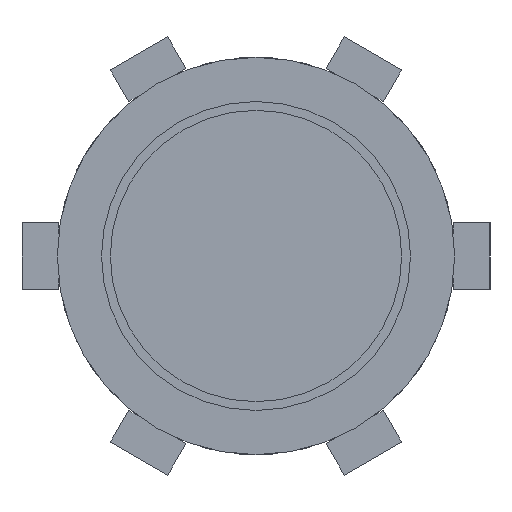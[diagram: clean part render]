
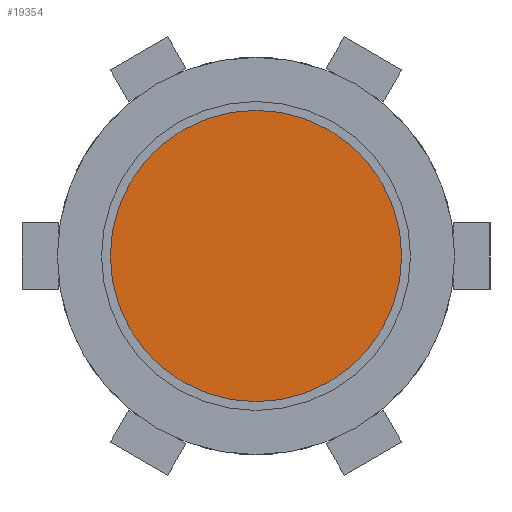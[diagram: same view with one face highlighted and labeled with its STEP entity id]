
A CAD part, left-side view. The second image highlights one B-rep face of the part: STEP entity #19354.
In plain terms, the highlighted planar face has unit normal (-1, 0, 0).
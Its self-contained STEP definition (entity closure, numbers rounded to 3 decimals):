
#19229 = CYLINDRICAL_SURFACE('',#19230,6.6);
#19230 = AXIS2_PLACEMENT_3D('',#19231,#19232,#19233);
#19231 = CARTESIAN_POINT('',(-64.07,-49.893,-53.918));
#19232 = DIRECTION('',(1.,0.,0.));
#19233 = DIRECTION('',(0.,1.,0.));
#19300 = VERTEX_POINT('',#19301);
#19301 = CARTESIAN_POINT('',(-64.,-43.293,-53.918));
#19324 = EDGE_CURVE('',#19300,#19300,#19325,.T.);
#19325 = SURFACE_CURVE('',#19326,(#19331,#19338),.PCURVE_S1.);
#19326 = CIRCLE('',#19327,6.6);
#19327 = AXIS2_PLACEMENT_3D('',#19328,#19329,#19330);
#19328 = CARTESIAN_POINT('',(-64.,-49.893,-53.918));
#19329 = DIRECTION('',(1.,0.,0.));
#19330 = DIRECTION('',(0.,1.,0.));
#19331 = PCURVE('',#19229,#19332);
#19332 = DEFINITIONAL_REPRESENTATION('',(#19333),#19337);
#19333 = LINE('',#19334,#19335);
#19334 = CARTESIAN_POINT('',(0.,0.07));
#19335 = VECTOR('',#19336,1.);
#19336 = DIRECTION('',(1.,0.));
#19337 = ( GEOMETRIC_REPRESENTATION_CONTEXT(2) 
PARAMETRIC_REPRESENTATION_CONTEXT() REPRESENTATION_CONTEXT('2D SPACE',''
  ) );
#19338 = PCURVE('',#19339,#19344);
#19339 = PLANE('',#19340);
#19340 = AXIS2_PLACEMENT_3D('',#19341,#19342,#19343);
#19341 = CARTESIAN_POINT('',(-64.,-49.893,-53.918));
#19342 = DIRECTION('',(1.,0.,0.));
#19343 = DIRECTION('',(0.,1.,0.));
#19344 = DEFINITIONAL_REPRESENTATION('',(#19345),#19349);
#19345 = CIRCLE('',#19346,6.6);
#19346 = AXIS2_PLACEMENT_2D('',#19347,#19348);
#19347 = CARTESIAN_POINT('',(0.,0.));
#19348 = DIRECTION('',(1.,0.));
#19349 = ( GEOMETRIC_REPRESENTATION_CONTEXT(2) 
PARAMETRIC_REPRESENTATION_CONTEXT() REPRESENTATION_CONTEXT('2D SPACE',''
  ) );
#19354 = ADVANCED_FACE('',(#19355),#19339,.F.);
#19355 = FACE_BOUND('',#19356,.F.);
#19356 = EDGE_LOOP('',(#19357));
#19357 = ORIENTED_EDGE('',*,*,#19324,.T.);
